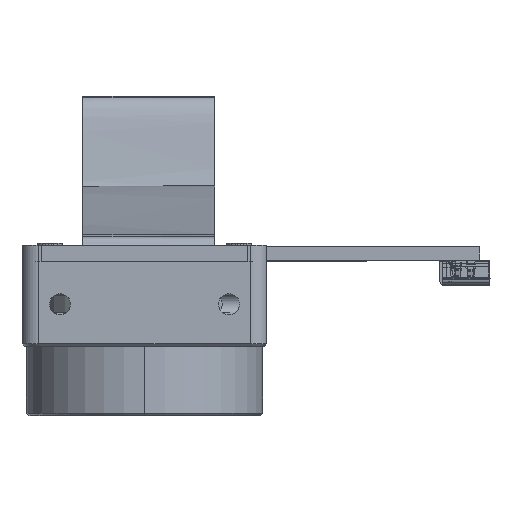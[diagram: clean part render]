
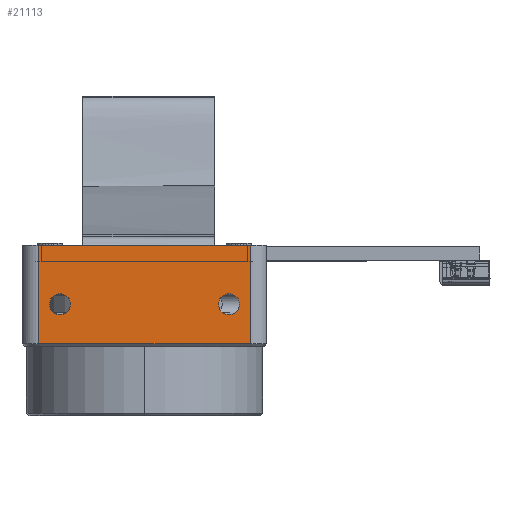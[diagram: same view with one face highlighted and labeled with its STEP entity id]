
A CAD part, left-side view. The second image highlights one B-rep face of the part: STEP entity #21113.
In plain terms, the highlighted planar face has unit normal (-1, 0, 0) as drawn and (1, 0, 0) by its records, which use the part's own axes.
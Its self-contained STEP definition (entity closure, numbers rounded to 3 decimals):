
#348 = VECTOR ( 'NONE', #28850, 1000. ) ;
#483 = EDGE_CURVE ( 'NONE', #27399, #25500, #10170, .T. ) ;
#575 = CARTESIAN_POINT ( 'NONE',  ( 14.5, 12.5, 11.7 ) ) ;
#989 = FACE_BOUND ( 'NONE', #1400, .T. ) ;
#1171 = DIRECTION ( 'NONE',  ( 0., 0., 1. ) ) ;
#1398 = DIRECTION ( 'NONE',  ( 0., 0., -1. ) ) ;
#1400 = EDGE_LOOP ( 'NONE', ( #29332, #24113 ) ) ;
#1818 = DIRECTION ( 'NONE',  ( 0., -1., 0. ) ) ;
#3365 = CARTESIAN_POINT ( 'NONE',  ( 14.5, 10., 7. ) ) ;
#4668 = CARTESIAN_POINT ( 'NONE',  ( 14.5, -10., 8.25 ) ) ;
#5771 = ORIENTED_EDGE ( 'NONE', *, *, #29385, .F. ) ;
#5966 = VECTOR ( 'NONE', #1818, 1000. ) ;
#6191 = DIRECTION ( 'NONE',  ( 0., 0., -1. ) ) ;
#6710 = FACE_BOUND ( 'NONE', #20096, .T. ) ;
#6886 = CARTESIAN_POINT ( 'NONE',  ( 14.5, -10., 7. ) ) ;
#7175 = AXIS2_PLACEMENT_3D ( 'NONE', #34876, #18232, #1398 ) ;
#7387 = DIRECTION ( 'NONE',  ( 0., 0., -1. ) ) ;
#7480 = CARTESIAN_POINT ( 'NONE',  ( 14.5, 12.5, 0. ) ) ;
#7837 = LINE ( 'NONE', #23245, #348 ) ;
#7897 = VECTOR ( 'NONE', #1171, 1000. ) ;
#8187 = DIRECTION ( 'NONE',  ( 1., 0., 0. ) ) ;
#8331 = CARTESIAN_POINT ( 'NONE',  ( 14.5, -12.5, 11.7 ) ) ;
#10127 = CIRCLE ( 'NONE', #28992, 1.25 ) ;
#10170 = CIRCLE ( 'NONE', #17146, 1.25 ) ;
#11878 = LINE ( 'NONE', #13155, #25925 ) ;
#12456 = DIRECTION ( 'NONE',  ( 0., 0., -1. ) ) ;
#12989 = CIRCLE ( 'NONE', #26365, 1.25 ) ;
#13155 = CARTESIAN_POINT ( 'NONE',  ( 14.5, -12.5, 12. ) ) ;
#13182 = EDGE_CURVE ( 'NONE', #24783, #31686, #22140, .T. ) ;
#15341 = VERTEX_POINT ( 'NONE', #27253 ) ;
#17146 = AXIS2_PLACEMENT_3D ( 'NONE', #6886, #19017, #34202 ) ;
#18231 = CIRCLE ( 'NONE', #7175, 1.25 ) ;
#18232 = DIRECTION ( 'NONE',  ( 1., 0., 0. ) ) ;
#19017 = DIRECTION ( 'NONE',  ( 1., 0., 0. ) ) ;
#19269 = ORIENTED_EDGE ( 'NONE', *, *, #25183, .T. ) ;
#19684 = EDGE_CURVE ( 'NONE', #25500, #27399, #18231, .T. ) ;
#20096 = EDGE_LOOP ( 'NONE', ( #28028, #5771 ) ) ;
#21113 = ADVANCED_FACE ( 'NONE', ( #6710, #989, #28146 ), #26427, .T. ) ;
#21350 = CARTESIAN_POINT ( 'NONE',  ( 14.5, 10., 8.25 ) ) ;
#22140 = LINE ( 'NONE', #26947, #5966 ) ;
#22270 = CARTESIAN_POINT ( 'NONE',  ( 14.5, -12.5, 0. ) ) ;
#22494 = EDGE_CURVE ( 'NONE', #23030, #31686, #11878, .T. ) ;
#22957 = DIRECTION ( 'NONE',  ( 1., 0., 0. ) ) ;
#22965 = VERTEX_POINT ( 'NONE', #21350 ) ;
#23030 = VERTEX_POINT ( 'NONE', #8331 ) ;
#23245 = CARTESIAN_POINT ( 'NONE',  ( 14.5, -12.5, 11.7 ) ) ;
#23306 = EDGE_CURVE ( 'NONE', #24783, #30685, #23655, .T. ) ;
#23655 = LINE ( 'NONE', #26310, #7897 ) ;
#24113 = ORIENTED_EDGE ( 'NONE', *, *, #483, .F. ) ;
#24783 = VERTEX_POINT ( 'NONE', #7480 ) ;
#24949 = ORIENTED_EDGE ( 'NONE', *, *, #22494, .T. ) ;
#24982 = CARTESIAN_POINT ( 'NONE',  ( 14.5, 10., 7. ) ) ;
#25183 = EDGE_CURVE ( 'NONE', #30685, #23030, #7837, .T. ) ;
#25500 = VERTEX_POINT ( 'NONE', #36231 ) ;
#25925 = VECTOR ( 'NONE', #7387, 1000. ) ;
#26310 = CARTESIAN_POINT ( 'NONE',  ( 14.5, 12.5, 12. ) ) ;
#26365 = AXIS2_PLACEMENT_3D ( 'NONE', #24982, #8187, #27760 ) ;
#26427 = PLANE ( 'NONE',  #30625 ) ;
#26947 = CARTESIAN_POINT ( 'NONE',  ( 14.5, 14.5, 0. ) ) ;
#27253 = CARTESIAN_POINT ( 'NONE',  ( 14.5, 10., 5.75 ) ) ;
#27399 = VERTEX_POINT ( 'NONE', #4668 ) ;
#27760 = DIRECTION ( 'NONE',  ( 0., 0., -1. ) ) ;
#28028 = ORIENTED_EDGE ( 'NONE', *, *, #33769, .F. ) ;
#28146 = FACE_OUTER_BOUND ( 'NONE', #30794, .T. ) ;
#28850 = DIRECTION ( 'NONE',  ( 0., -1., 0. ) ) ;
#28992 = AXIS2_PLACEMENT_3D ( 'NONE', #3365, #22957, #6191 ) ;
#29194 = DIRECTION ( 'NONE',  ( 1., 0., 0. ) ) ;
#29332 = ORIENTED_EDGE ( 'NONE', *, *, #19684, .F. ) ;
#29385 = EDGE_CURVE ( 'NONE', #22965, #15341, #12989, .T. ) ;
#30054 = ORIENTED_EDGE ( 'NONE', *, *, #23306, .T. ) ;
#30625 = AXIS2_PLACEMENT_3D ( 'NONE', #35771, #29194, #12456 ) ;
#30685 = VERTEX_POINT ( 'NONE', #575 ) ;
#30794 = EDGE_LOOP ( 'NONE', ( #30054, #19269, #24949, #31080 ) ) ;
#31080 = ORIENTED_EDGE ( 'NONE', *, *, #13182, .F. ) ;
#31686 = VERTEX_POINT ( 'NONE', #22270 ) ;
#33769 = EDGE_CURVE ( 'NONE', #15341, #22965, #10127, .T. ) ;
#34202 = DIRECTION ( 'NONE',  ( 0., 0., -1. ) ) ;
#34876 = CARTESIAN_POINT ( 'NONE',  ( 14.5, -10., 7. ) ) ;
#35771 = CARTESIAN_POINT ( 'NONE',  ( 14.5, 14.5, 12. ) ) ;
#36231 = CARTESIAN_POINT ( 'NONE',  ( 14.5, -10., 5.75 ) ) ;
